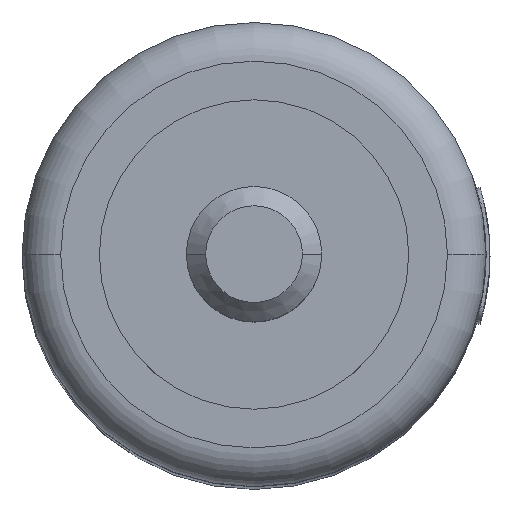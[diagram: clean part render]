
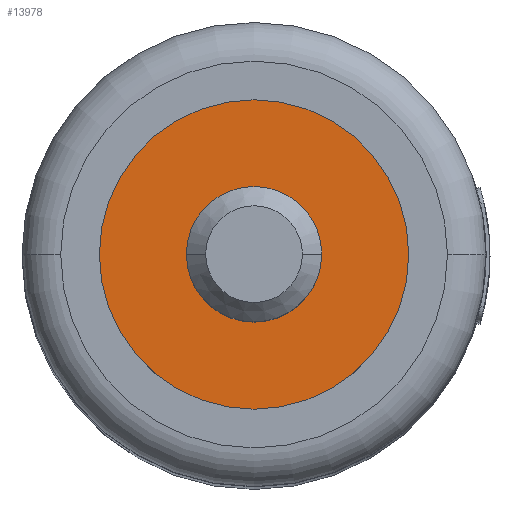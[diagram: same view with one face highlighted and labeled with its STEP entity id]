
A CAD part, top view. The second image highlights one B-rep face of the part: STEP entity #13978.
In plain terms, the highlighted planar face has unit normal (0, 0, 1).
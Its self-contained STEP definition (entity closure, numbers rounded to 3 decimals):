
#766 = DIRECTION ( 'NONE',  ( 0., 0., 1. ) ) ;
#1093 = AXIS2_PLACEMENT_3D ( 'NONE', #12595, #766, #9035 ) ;
#1624 = AXIS2_PLACEMENT_3D ( 'NONE', #2135, #15124, #2066 ) ;
#2065 = FACE_BOUND ( 'NONE', #2618, .T. ) ;
#2066 = DIRECTION ( 'NONE',  ( 1., 0., 0. ) ) ;
#2083 = AXIS2_PLACEMENT_3D ( 'NONE', #12898, #10759, #13055 ) ;
#2135 = CARTESIAN_POINT ( 'NONE',  ( 0., 0., 45. ) ) ;
#2374 = CIRCLE ( 'NONE', #14335, 1.75 ) ;
#2417 = EDGE_CURVE ( 'NONE', #13712, #14592, #14063, .T. ) ;
#2608 = EDGE_CURVE ( 'NONE', #8540, #5074, #6668, .T. ) ;
#2618 = EDGE_LOOP ( 'NONE', ( #14263, #8267 ) ) ;
#3023 = DIRECTION ( 'NONE',  ( 1., 0., 0. ) ) ;
#4039 = CIRCLE ( 'NONE', #2083, 4. ) ;
#4626 = DIRECTION ( 'NONE',  ( 1., 0., 0. ) ) ;
#5074 = VERTEX_POINT ( 'NONE', #10465 ) ;
#5619 = EDGE_LOOP ( 'NONE', ( #8460, #9423 ) ) ;
#5783 = DIRECTION ( 'NONE',  ( 0., 0., 1. ) ) ;
#5941 = EDGE_CURVE ( 'NONE', #5074, #8540, #2374, .T. ) ;
#6668 = CIRCLE ( 'NONE', #13975, 1.75 ) ;
#6815 = CARTESIAN_POINT ( 'NONE',  ( -4., 0., 45. ) ) ;
#7878 = FACE_OUTER_BOUND ( 'NONE', #5619, .T. ) ;
#8267 = ORIENTED_EDGE ( 'NONE', *, *, #5941, .F. ) ;
#8460 = ORIENTED_EDGE ( 'NONE', *, *, #2417, .T. ) ;
#8540 = VERTEX_POINT ( 'NONE', #14756 ) ;
#9035 = DIRECTION ( 'NONE',  ( 1., 0., 0. ) ) ;
#9380 = CARTESIAN_POINT ( 'NONE',  ( 4., 0., 45. ) ) ;
#9423 = ORIENTED_EDGE ( 'NONE', *, *, #14945, .T. ) ;
#10465 = CARTESIAN_POINT ( 'NONE',  ( 1.75, 0., 45. ) ) ;
#10759 = DIRECTION ( 'NONE',  ( 0., 0., 1. ) ) ;
#12496 = DIRECTION ( 'NONE',  ( 0., 0., 1. ) ) ;
#12595 = CARTESIAN_POINT ( 'NONE',  ( 0., 0., 45. ) ) ;
#12898 = CARTESIAN_POINT ( 'NONE',  ( 0., 0., 45. ) ) ;
#13055 = DIRECTION ( 'NONE',  ( 1., 0., 0. ) ) ;
#13707 = CARTESIAN_POINT ( 'NONE',  ( 0., 0., 45. ) ) ;
#13712 = VERTEX_POINT ( 'NONE', #6815 ) ;
#13959 = CARTESIAN_POINT ( 'NONE',  ( 0., 0., 45. ) ) ;
#13975 = AXIS2_PLACEMENT_3D ( 'NONE', #13959, #5783, #4626 ) ;
#13978 = ADVANCED_FACE ( 'NONE', ( #2065, #7878 ), #14830, .T. ) ;
#14063 = CIRCLE ( 'NONE', #1624, 4. ) ;
#14263 = ORIENTED_EDGE ( 'NONE', *, *, #2608, .F. ) ;
#14335 = AXIS2_PLACEMENT_3D ( 'NONE', #13707, #12496, #3023 ) ;
#14592 = VERTEX_POINT ( 'NONE', #9380 ) ;
#14756 = CARTESIAN_POINT ( 'NONE',  ( -1.75, 0., 45. ) ) ;
#14830 = PLANE ( 'NONE',  #1093 ) ;
#14945 = EDGE_CURVE ( 'NONE', #14592, #13712, #4039, .T. ) ;
#15124 = DIRECTION ( 'NONE',  ( 0., 0., 1. ) ) ;
